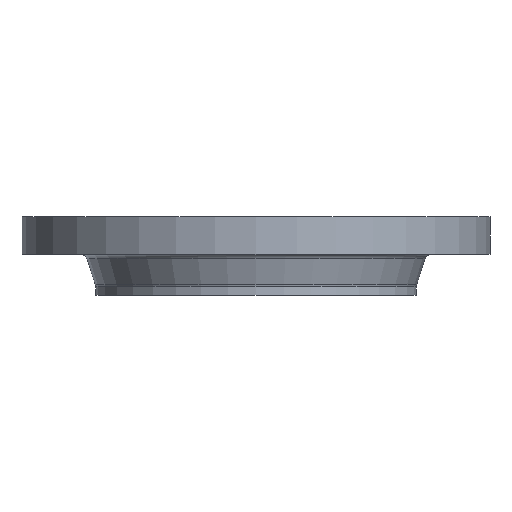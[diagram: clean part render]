
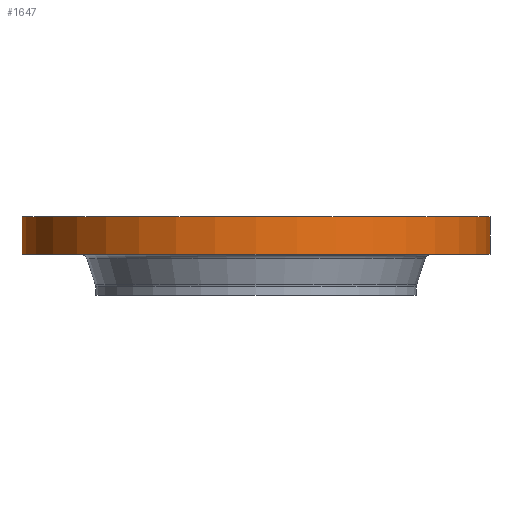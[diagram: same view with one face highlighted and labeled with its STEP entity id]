
A CAD part, front view. The second image highlights one B-rep face of the part: STEP entity #1647.
In plain terms, the highlighted cylindrical face has radius 445 mm (diameter 890 mm), a partial arc.
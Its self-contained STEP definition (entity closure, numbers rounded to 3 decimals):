
#6 = EDGE_CURVE ( 'NONE', #1520, #1763, #16, .T. ) ;
#16 = CIRCLE ( 'NONE', #25, 445. ) ;
#22 = CARTESIAN_POINT ( 'NONE',  ( -445., 0., -72. ) ) ;
#25 = AXIS2_PLACEMENT_3D ( 'NONE', #892, #885, #883 ) ;
#42 = CARTESIAN_POINT ( 'NONE',  ( -445., 0., 0. ) ) ;
#204 = VECTOR ( 'NONE', #1894, 1000. ) ;
#279 = CARTESIAN_POINT ( 'NONE',  ( 445., 0., -72. ) ) ;
#297 = EDGE_CURVE ( 'NONE', #1364, #1530, #646, .T. ) ;
#583 = DIRECTION ( 'NONE',  ( 0., 0., 1. ) ) ;
#584 = CARTESIAN_POINT ( 'NONE',  ( 445., 0., -160. ) ) ;
#587 = LINE ( 'NONE', #584, #1143 ) ;
#597 = DIRECTION ( 'NONE',  ( 0., 0., 1. ) ) ;
#646 = CIRCLE ( 'NONE', #647, 445. ) ;
#647 = AXIS2_PLACEMENT_3D ( 'NONE', #717, #711, #707 ) ;
#656 = EDGE_CURVE ( 'NONE', #1364, #1763, #587, .T. ) ;
#707 = DIRECTION ( 'NONE',  ( -1., 0., 0. ) ) ;
#711 = DIRECTION ( 'NONE',  ( 0., 0., -1. ) ) ;
#717 = CARTESIAN_POINT ( 'NONE',  ( 0., 0., -72. ) ) ;
#757 = FACE_OUTER_BOUND ( 'NONE', #932, .T. ) ;
#838 = LINE ( 'NONE', #1502, #204 ) ;
#883 = DIRECTION ( 'NONE',  ( 1., 0., 0. ) ) ;
#885 = DIRECTION ( 'NONE',  ( 0., 0., 1. ) ) ;
#892 = CARTESIAN_POINT ( 'NONE',  ( 0., 0., 0. ) ) ;
#932 = EDGE_LOOP ( 'NONE', ( #1153, #1149, #1148, #1147 ) ) ;
#1143 = VECTOR ( 'NONE', #583, 1000. ) ;
#1147 = ORIENTED_EDGE ( 'NONE', *, *, #6, .F. ) ;
#1148 = ORIENTED_EDGE ( 'NONE', *, *, #656, .T. ) ;
#1149 = ORIENTED_EDGE ( 'NONE', *, *, #297, .F. ) ;
#1153 = ORIENTED_EDGE ( 'NONE', *, *, #1687, .F. ) ;
#1334 = AXIS2_PLACEMENT_3D ( 'NONE', #1885, #597, #1346 ) ;
#1346 = DIRECTION ( 'NONE',  ( 1., 0., 0. ) ) ;
#1364 = VERTEX_POINT ( 'NONE', #279 ) ;
#1456 = CYLINDRICAL_SURFACE ( 'NONE', #1334, 445. ) ;
#1502 = CARTESIAN_POINT ( 'NONE',  ( -445., 0., -160. ) ) ;
#1520 = VERTEX_POINT ( 'NONE', #42 ) ;
#1530 = VERTEX_POINT ( 'NONE', #22 ) ;
#1647 = ADVANCED_FACE ( 'NONE', ( #757 ), #1456, .T. ) ;
#1687 = EDGE_CURVE ( 'NONE', #1530, #1520, #838, .T. ) ;
#1712 = CARTESIAN_POINT ( 'NONE',  ( 445., 0., 0. ) ) ;
#1763 = VERTEX_POINT ( 'NONE', #1712 ) ;
#1885 = CARTESIAN_POINT ( 'NONE',  ( 0., 0., -160. ) ) ;
#1894 = DIRECTION ( 'NONE',  ( 0., 0., 1. ) ) ;
